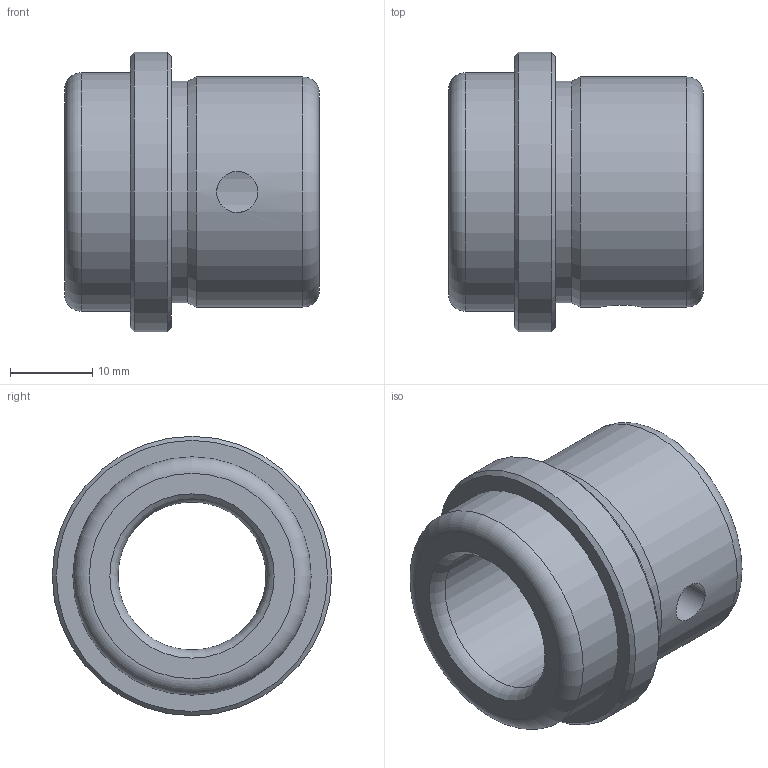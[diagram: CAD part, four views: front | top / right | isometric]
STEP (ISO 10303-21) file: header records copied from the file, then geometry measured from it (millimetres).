
FILE_DESCRIPTION(/* description */ ('Impex Ready, www.impex-ready.pl'),/* implementation_level */ '2;1');
FILE_NAME(/* name */ 'C:\Users\VIKKY\Nextcloud\SM\projekt 10 - części na stronę internetową\Pliki_3D_new\296 Tuleje BEB\296_Tuleje_BEB_STEP\BEB18C.ipt.step',/* time_stamp */ '2022-01-19T07:28:53+01:00',/* author */ ('SM'),/* organization */ (''),/* preprocessor_version */ 'ST-DEVELOPER v18.1',/* originating_system */ 'Autodesk Inventor 2021',/* authorisation */ '');
FILE_SCHEMA (('AUTOMOTIVE_DESIGN { 1 0 10303 214 3 1 1 }'));
Length unit declared in the file: millimetre
Products named in the file (1): BEB18C
Bounding box: 31 x 34 x 34 mm (x, y, z)
Volume: 12577.8 mm3; surface area: 9558 mm2
Topology: 2 solids, 2 shells, 20 faces, 51 edges, 31 vertices
Faces by surface type: cylinder 9, torus 4, plane 4, cone 3
Full cylindrical faces by diameter (mm): 5 x2, 18 x1, 20 x2, 27 x1, 28 x1, 29 x1, 34 x1
Entity records: 837 total; most frequent: CARTESIAN_POINT 243, DIRECTION 106, ORIENTED_EDGE 102, EDGE_CURVE 51, AXIS2_PLACEMENT_3D 45, VERTEX_POINT 31, EDGE_LOOP 24, CIRCLE 24
